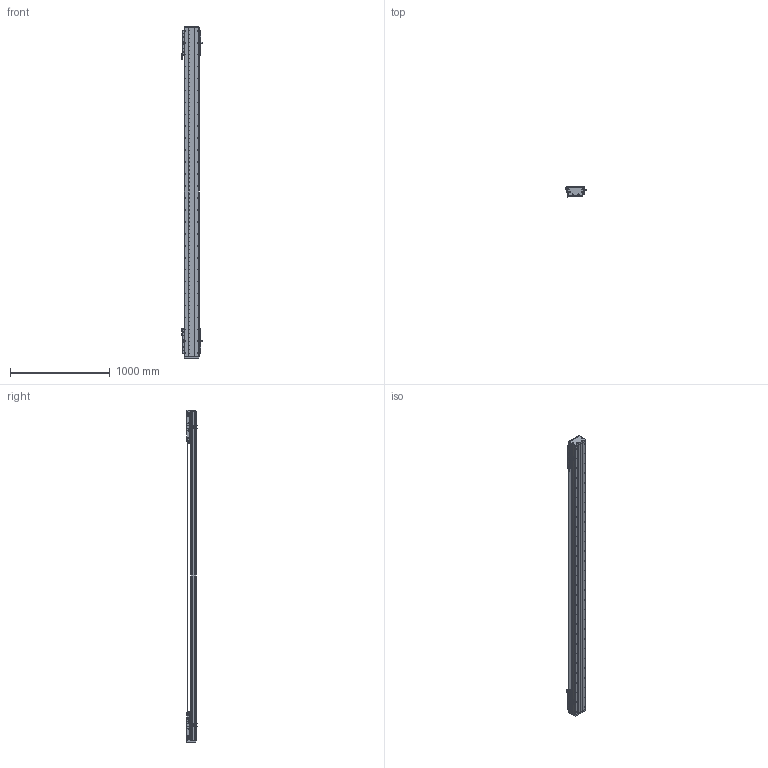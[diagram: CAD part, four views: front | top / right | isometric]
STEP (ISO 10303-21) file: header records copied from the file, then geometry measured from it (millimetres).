
FILE_DESCRIPTION (( 'STEP AP203' ), '1' );
FILE_NAME ('DA-C145-2-C3-T2720-C010-0.2 眻盄萇儂.STEP', '2025-08-14T00:37:43', ( '' ), ( '' ), 'SwSTEP 2.0', 'SolidWorks 2019', '' );
FILE_SCHEMA (( 'CONFIG_CONTROL_DESIGN' ));
Length unit declared in the file: millimetre
Products named in the file (38): 葩璃 鞠褒情蹟譫 M3^DA-C145-2-C3-T-C010-0.2; 复件 内六角平端紧定螺钉 GB.T77-2000 M5×10^CU145-W 滚珠滑台; 葩璃 DA95-GT-T-00^IU-CU145-L 菁釱絳寢; 复件 DA95-MFP-01 密封片^CU145-W 滚珠滑台; 葩璃 DA145-C3-DP-A-00 菜えA^CU145-W 幗紩賑怢; 复件 DA145-C3-DK-00 挡块^CU145-W 滚珠滑台; 葩璃 DA95-HXJ-00 遣喳砎蝶^DA-C145-2-C3-T-C010-0.2; 复件 DA95-HK-GT-00 滑块钢轨^CU145-W-00 一体化滑动台板; 复件 纯铜油杯 6x6mm^CU145-W 滚珠滑台; CU145-W-00 珨极趙賑雄怢啣; 葩璃 CKM03-W060-C1C2-TP-0.2^DA-C145-2-C3-T-C010-0.2; 复件 DA145-C3-YB-A-00 压板A^CU145-W 滚珠滑台; DKW-KGZ-ZJ-00 中间光电开关支架; 复件 半圆头内六角螺钉 M3×6^CU145-W 滚珠滑台; CU145-W-00 珨极趙賑雄怢啣-1; DKW-GYP-ZJ-00 笢潔嫖萇覜茼え; 葩璃 PM-T45^DA-C145-2-C3-T-C010-0.2; 复件 DA95-DB-00  挡板^CU145-W 滚珠滑台; 葩璃 CKMA01-W060-TRL^DA-C145-2-C3-T-C010-0.2; TAY01-M8; IU-CU145-L-00 菁釱(L3300); 复件 DA145 钢带^复件 CU145 钢带组件_DA-C145-2-C3-T-C010-0.2; DA-C145-2-C3-T2720-C010-0.2 眻盄萇儂; IU-CU145-L 菁釱絳寢; 66245-CU145-HT-W-00 賑雄怢啣(3D芞祧)(00); 复件 DA146 钢带拉块^复件 CU145 钢带组件_DA-C145-2-C3-T-C010-0.2; 葩璃 DMA-010-0.2 黍杅芛^DA-C145-2-C3-T-C010-0.2; 葩璃 DA145-C3-DP-B-00 菜えB^CU145-W 幗紩賑怢; 葩璃 PM-Y65^DA-C145-2-C3-T-C010-0.2; 葩璃 XD-U-02L 棠掑喜^DA-C145-2-C3-T-C010-0.2; 复件 DA146 钢带垫块^复件 CU145 钢带组件_DA-C145-2-C3-T-C010-0.2; DKW168-HXJ-ZJ-00 笢潔滅袉砎蝶; CU145-W 幗紩賑怢-1; 复件 DA145-DG 钢带端盖^复件 CU145 钢带组件_DA-C145-2-C3-T-C010-0.2; 复件 DA145-GYP-00 光电感应片^DA-C145-2-C3-T-C010-0.2; CU145-W 幗紩賑怢; 葩璃 CU145 詩湍郪璃^DA-C145-2-C3-T-C010-0.2; 复件 DA145-C3-YB-B-00 压板B^CU145-W 滚珠滑台
Assembly tree (180 placements, depth 4):
  DA-C145-2-C3-T2720-C010-0.2 眻盄萇儂
    IU-CU145-L 菁釱絳寢
      IU-CU145-L-00 菁釱(L3300)
      葩璃 DA95-GT-T-00^IU-CU145-L 菁釱絳寢  x4
    葩璃 CU145 詩湍郪璃^DA-C145-2-C3-T-C010-0.2
      复件 DA145-DG 钢带端盖^复件 CU145 钢带组件_DA-C145-2-C3-T-C010-0.2  x2
      复件 DA146 钢带拉块^复件 CU145 钢带组件_DA-C145-2-C3-T-C010-0.2  x2
      复件 DA146 钢带垫块^复件 CU145 钢带组件_DA-C145-2-C3-T-C010-0.2  x2
      复件 DA145 钢带^复件 CU145 钢带组件_DA-C145-2-C3-T-C010-0.2
    CU145-W 幗紩賑怢
      CU145-W-00 珨极趙賑雄怢啣
        66245-CU145-HT-W-00 賑雄怢啣(3D芞祧)(00)
        复件 DA95-HK-GT-00 滑块钢轨^CU145-W-00 一体化滑动台板  x8
      复件 DA95-MFP-01 密封片^CU145-W 滚珠滑台  x8
      复件 DA95-DB-00  挡板^CU145-W 滚珠滑台  x8
      复件 内六角平端紧定螺钉 GB.T77-2000 M5×10^CU145-W 滚珠滑台  x4
      复件 纯铜油杯 6x6mm^CU145-W 滚珠滑台  x4
      复件 半圆头内六角螺钉 M3×6^CU145-W 滚珠滑台  x16
      复件 DA145-C3-DK-00 挡块^CU145-W 滚珠滑台  x4
      葩璃 DA145-C3-DP-B-00 菜えB^CU145-W 幗紩賑怢  x2
      复件 DA145-C3-YB-B-00 压板B^CU145-W 滚珠滑台  x2
      葩璃 DA145-C3-DP-A-00 菜えA^CU145-W 幗紩賑怢  x3
      复件 DA145-C3-YB-A-00 压板A^CU145-W 滚珠滑台  x3
      TAY01-M8  x4
    CU145-W 幗紩賑怢-1
      CU145-W-00 珨极趙賑雄怢啣-1
        66245-CU145-HT-W-00 賑雄怢啣(3D芞祧)(00)
        复件 DA95-HK-GT-00 滑块钢轨^CU145-W-00 一体化滑动台板  x8
      复件 DA95-MFP-01 密封片^CU145-W 滚珠滑台  x8
      复件 DA95-DB-00  挡板^CU145-W 滚珠滑台  x8
      复件 内六角平端紧定螺钉 GB.T77-2000 M5×10^CU145-W 滚珠滑台  x4
      复件 纯铜油杯 6x6mm^CU145-W 滚珠滑台  x4
      复件 半圆头内六角螺钉 M3×6^CU145-W 滚珠滑台  x16
      复件 DA145-C3-DK-00 挡块^CU145-W 滚珠滑台  x4
      葩璃 DA145-C3-DP-B-00 菜えB^CU145-W 幗紩賑怢  x2
      复件 DA145-C3-YB-B-00 压板B^CU145-W 滚珠滑台  x2
      葩璃 DA145-C3-DP-A-00 菜えA^CU145-W 幗紩賑怢  x3
      复件 DA145-C3-YB-A-00 压板A^CU145-W 滚珠滑台  x3
      TAY01-M8  x4
    葩璃 CKMA01-W060-TRL^DA-C145-2-C3-T-C010-0.2
    葩璃 PM-T45^DA-C145-2-C3-T-C010-0.2  x4
    葩璃 XD-U-02L 棠掑喜^DA-C145-2-C3-T-C010-0.2
    葩璃 DA95-HXJ-00 遣喳砎蝶^DA-C145-2-C3-T-C010-0.2  x4
    葩璃 CKM03-W060-C1C2-TP-0.2^DA-C145-2-C3-T-C010-0.2  x2
    葩璃 DMA-010-0.2 黍杅芛^DA-C145-2-C3-T-C010-0.2  x2
    复件 DA145-GYP-00 光电感应片^DA-C145-2-C3-T-C010-0.2  x2
    DKW-GYP-ZJ-00 笢潔嫖萇覜茼え
    DKW-KGZ-ZJ-00 中间光电开关支架
    葩璃 PM-Y65^DA-C145-2-C3-T-C010-0.2
    葩璃 鞠褒情蹟譫 M3^DA-C145-2-C3-T-C010-0.2  x8
    DKW168-HXJ-ZJ-00 笢潔滅袉砎蝶
Bounding box: 213.7 x 108.45 x 3336 mm (x, y, z)
Volume: 17018398.7 mm3; surface area: 5515221.6 mm2
Topology: 175 solids, 239 shells, 7855 faces, 21693 edges, 13481 vertices
Faces by surface type: cylinder 3552, plane 2963, cone 1184, torus 140, sphere 8, bspline 8
Entity records: 157968 total; most frequent: CARTESIAN_POINT 47714, ORIENTED_EDGE 22072, DIRECTION 20621, EDGE_CURVE 11036, AXIS2_PLACEMENT_3D 7615, VERTEX_POINT 7180, LINE 5391, VECTOR 5391
